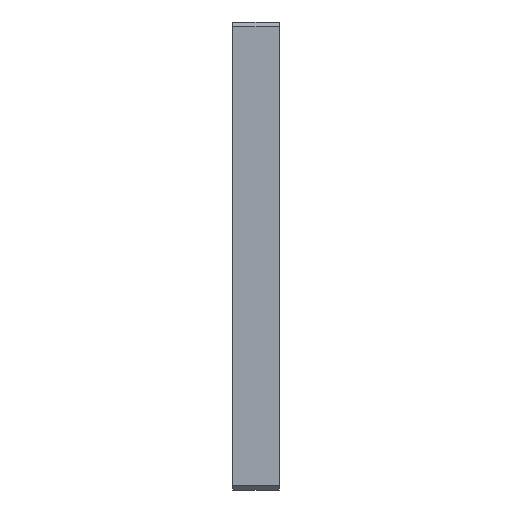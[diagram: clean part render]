
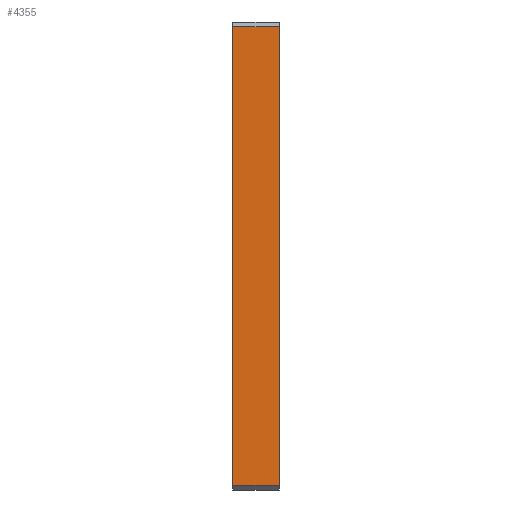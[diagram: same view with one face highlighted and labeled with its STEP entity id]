
A CAD part, left-side view. The second image highlights one B-rep face of the part: STEP entity #4355.
In plain terms, the highlighted planar face has unit normal (-1, 0, 0).
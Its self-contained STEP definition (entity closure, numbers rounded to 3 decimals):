
#448 = DIRECTION ( 'NONE',  ( 0., 0., 1. ) ) ;
#460 = VECTOR ( 'NONE', #2001, 1000. ) ;
#716 = CARTESIAN_POINT ( 'NONE',  ( -57.866, -1.691, 50. ) ) ;
#849 = VERTEX_POINT ( 'NONE', #5546 ) ;
#889 = CARTESIAN_POINT ( 'NONE',  ( -57.866, 8.309, 50. ) ) ;
#1029 = CARTESIAN_POINT ( 'NONE',  ( -57.866, 8.309, 149. ) ) ;
#1132 = CARTESIAN_POINT ( 'NONE',  ( -57.866, -1.691, 51. ) ) ;
#1180 = ORIENTED_EDGE ( 'NONE', *, *, #2748, .T. ) ;
#1281 = VECTOR ( 'NONE', #448, 1000. ) ;
#1432 = LINE ( 'NONE', #716, #4347 ) ;
#1501 = PLANE ( 'NONE',  #1706 ) ;
#1592 = VERTEX_POINT ( 'NONE', #1132 ) ;
#1619 = DIRECTION ( 'NONE',  ( 0., 0., 1. ) ) ;
#1706 = AXIS2_PLACEMENT_3D ( 'NONE', #3217, #4542, #1932 ) ;
#1908 = VERTEX_POINT ( 'NONE', #3578 ) ;
#1932 = DIRECTION ( 'NONE',  ( 0., 0., -1. ) ) ;
#2001 = DIRECTION ( 'NONE',  ( 0., -1., 0. ) ) ;
#2217 = EDGE_LOOP ( 'NONE', ( #3375, #1180, #5099, #5448 ) ) ;
#2405 = EDGE_CURVE ( 'NONE', #4330, #849, #3997, .T. ) ;
#2748 = EDGE_CURVE ( 'NONE', #1908, #849, #3170, .T. ) ;
#2944 = EDGE_CURVE ( 'NONE', #4330, #1592, #3512, .T. ) ;
#3170 = LINE ( 'NONE', #1029, #5201 ) ;
#3217 = CARTESIAN_POINT ( 'NONE',  ( -57.866, 8.309, 50. ) ) ;
#3375 = ORIENTED_EDGE ( 'NONE', *, *, #3893, .T. ) ;
#3512 = LINE ( 'NONE', #5021, #460 ) ;
#3578 = CARTESIAN_POINT ( 'NONE',  ( -57.866, -1.691, 149. ) ) ;
#3893 = EDGE_CURVE ( 'NONE', #1592, #1908, #1432, .T. ) ;
#3997 = LINE ( 'NONE', #889, #1281 ) ;
#4073 = DIRECTION ( 'NONE',  ( 0., 1., 0. ) ) ;
#4330 = VERTEX_POINT ( 'NONE', #4504 ) ;
#4347 = VECTOR ( 'NONE', #1619, 1000. ) ;
#4355 = ADVANCED_FACE ( 'NONE', ( #5490 ), #1501, .F. ) ;
#4504 = CARTESIAN_POINT ( 'NONE',  ( -57.866, 8.309, 51. ) ) ;
#4542 = DIRECTION ( 'NONE',  ( 1., 0., 0. ) ) ;
#5021 = CARTESIAN_POINT ( 'NONE',  ( -57.866, 8.309, 51. ) ) ;
#5099 = ORIENTED_EDGE ( 'NONE', *, *, #2405, .F. ) ;
#5201 = VECTOR ( 'NONE', #4073, 1000. ) ;
#5448 = ORIENTED_EDGE ( 'NONE', *, *, #2944, .T. ) ;
#5490 = FACE_OUTER_BOUND ( 'NONE', #2217, .T. ) ;
#5546 = CARTESIAN_POINT ( 'NONE',  ( -57.866, 8.309, 149. ) ) ;
